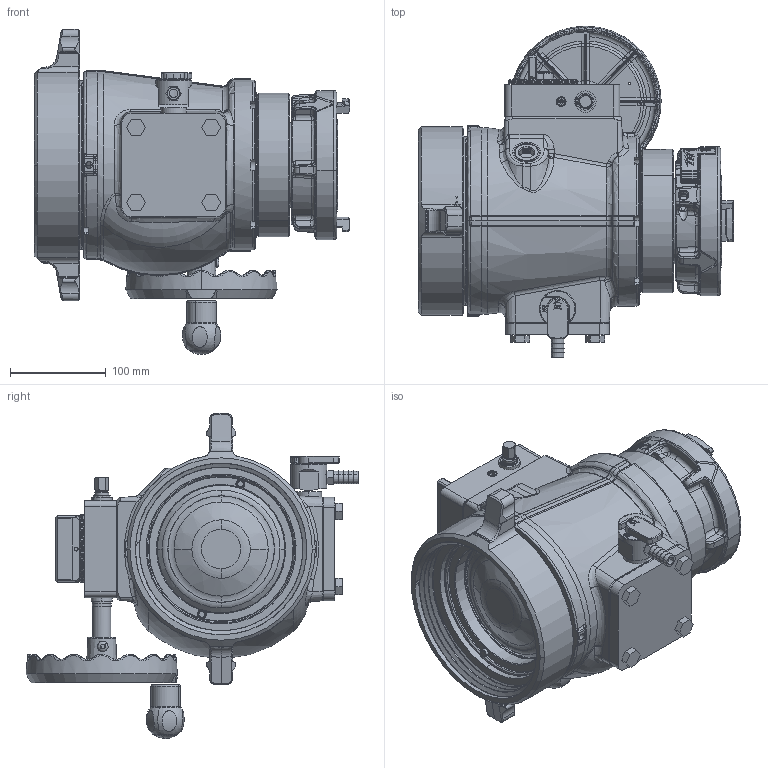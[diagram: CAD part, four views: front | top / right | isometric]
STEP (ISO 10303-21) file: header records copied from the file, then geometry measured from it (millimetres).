
FILE_DESCRIPTION (( 'STEP AP203' ), '1' );
FILE_NAME ('AQ1SP-NX.step', '2014-05-13T19:16:31', ( 'user' ), ( '' ), 'SwSTEP 2.0', 'SolidWorks 2012', '' );
FILE_SCHEMA (( 'CONFIG_CONTROL_DESIGN' ));
Length unit declared in the file: inch
Products named in the file (1): AQ1SP-NX
Bounding box: 329.18 x 346.81 x 339.79 mm (x, y, z)
Surface area: 553253.3 mm2 (no closed solid volume)
Topology: 0 solids, 132 shells, 2200 faces, 10075 edges, 7765 vertices
Faces by surface type: plane 727, bspline 530, cylinder 439, cone 250, torus 225, sphere 29
Entity records: 142816 total; most frequent: CARTESIAN_POINT 70261, ORIENTED_EDGE 14325, DIRECTION 12729, EDGE_CURVE 10039, VERTEX_POINT 7763, VECTOR 4737, LINE 4737, AXIS2_PLACEMENT_3D 3996
